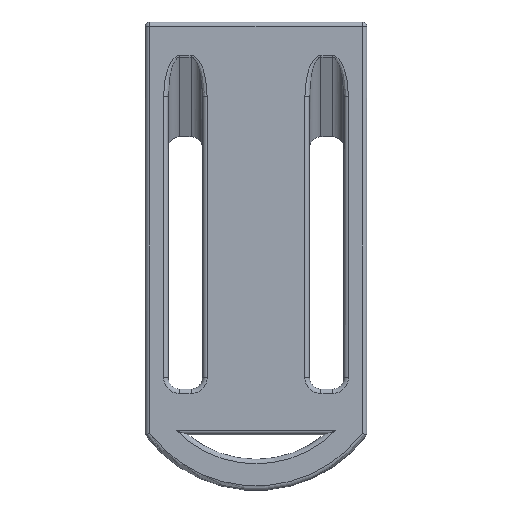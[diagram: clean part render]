
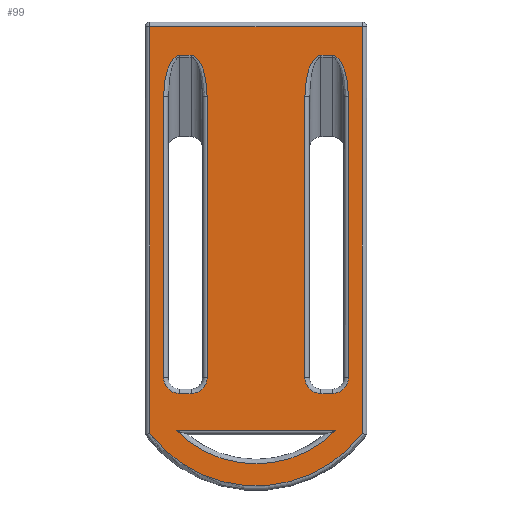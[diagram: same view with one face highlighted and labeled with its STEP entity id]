
A CAD part, front view. The second image highlights one B-rep face of the part: STEP entity #99.
In plain terms, the highlighted planar face has unit normal (0, -1, 0).
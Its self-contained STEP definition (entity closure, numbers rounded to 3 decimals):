
#99=ADVANCED_FACE('',(#494,#496,#498,#500),#502,.T.);
#494=FACE_BOUND('',#495,.T.);
#495=EDGE_LOOP('',(#1278,#1279,#1280,#1281));
#496=FACE_BOUND('',#497,.T.);
#497=EDGE_LOOP('',(#1282,#1283));
#498=FACE_BOUND('',#499,.T.);
#499=EDGE_LOOP('',(#1284,#1285,#1286,#1287,#1288,#1289,#1290,#1291));
#500=FACE_BOUND('',#501,.T.);
#501=EDGE_LOOP('',(#1292,#1293,#1294,#1295,#1296,#1297,#1298,#1299));
#502=PLANE('',#503);
#503=AXIS2_PLACEMENT_3D('',#504,#505,#506);
#504=CARTESIAN_POINT('',(-48.3,-5.,0.));
#505=DIRECTION('',(0.,-1.,0.));
#506=DIRECTION('',(1.,0.,0.));
#1278=ORIENTED_EDGE('',*,*,#1659,.F.);
#1279=ORIENTED_EDGE('',*,*,#1660,.T.);
#1280=ORIENTED_EDGE('',*,*,#1661,.T.);
#1281=ORIENTED_EDGE('',*,*,#1589,.F.);
#1282=ORIENTED_EDGE('',*,*,#1662,.T.);
#1283=ORIENTED_EDGE('',*,*,#1663,.T.);
#1284=ORIENTED_EDGE('',*,*,#1603,.F.);
#1285=ORIENTED_EDGE('',*,*,#1598,.T.);
#1286=ORIENTED_EDGE('',*,*,#1664,.F.);
#1287=ORIENTED_EDGE('',*,*,#1665,.T.);
#1288=ORIENTED_EDGE('',*,*,#1666,.F.);
#1289=ORIENTED_EDGE('',*,*,#1667,.T.);
#1290=ORIENTED_EDGE('',*,*,#1668,.F.);
#1291=ORIENTED_EDGE('',*,*,#1669,.T.);
#1292=ORIENTED_EDGE('',*,*,#1670,.F.);
#1293=ORIENTED_EDGE('',*,*,#1671,.T.);
#1294=ORIENTED_EDGE('',*,*,#1672,.F.);
#1295=ORIENTED_EDGE('',*,*,#1673,.T.);
#1296=ORIENTED_EDGE('',*,*,#1674,.F.);
#1297=ORIENTED_EDGE('',*,*,#1611,.T.);
#1298=ORIENTED_EDGE('',*,*,#1624,.F.);
#1299=ORIENTED_EDGE('',*,*,#1675,.T.);
#1589=EDGE_CURVE('',#1863,#1861,#1865,.T.);
#1598=EDGE_CURVE('',#1879,#1880,#1881,.F.);
#1603=EDGE_CURVE('',#1879,#1887,#1888,.F.);
#1611=EDGE_CURVE('',#1900,#1901,#1902,.F.);
#1624=EDGE_CURVE('',#1921,#1901,#1922,.F.);
#1659=EDGE_CURVE('',#1981,#1863,#1982,.T.);
#1660=EDGE_CURVE('',#1981,#1983,#1984,.T.);
#1661=EDGE_CURVE('',#1983,#1861,#1985,.T.);
#1662=EDGE_CURVE('',#1986,#1987,#1988,.F.);
#1663=EDGE_CURVE('',#1987,#1986,#1989,.F.);
#1664=EDGE_CURVE('',#1990,#1880,#1991,.F.);
#1665=EDGE_CURVE('',#1990,#1992,#1993,.F.);
#1666=EDGE_CURVE('',#1994,#1992,#1995,.T.);
#1667=EDGE_CURVE('',#1994,#1996,#1997,.F.);
#1668=EDGE_CURVE('',#1998,#1996,#1999,.F.);
#1669=EDGE_CURVE('',#1998,#1887,#2000,.F.);
#1670=EDGE_CURVE('',#2001,#2002,#2003,.F.);
#1671=EDGE_CURVE('',#2001,#2004,#2005,.F.);
#1672=EDGE_CURVE('',#2006,#2004,#2007,.F.);
#1673=EDGE_CURVE('',#2006,#2008,#2009,.F.);
#1674=EDGE_CURVE('',#1900,#2008,#2010,.T.);
#1675=EDGE_CURVE('',#1921,#2002,#2011,.F.);
#1861=VERTEX_POINT('',#2465);
#1863=VERTEX_POINT('',#2470);
#1865=LINE('',#2475,#2476);
#1879=VERTEX_POINT('',#2512);
#1880=VERTEX_POINT('',#2513);
#1881=LINE('',#2514,#2515);
#1887=VERTEX_POINT('',#2544);
#1888=CIRCLE('',#2545,7.);
#1900=VERTEX_POINT('',#2577);
#1901=VERTEX_POINT('',#2578);
#1902=LINE('',#2579,#2580);
#1921=VERTEX_POINT('',#2641);
#1922=CIRCLE('',#2642,7.);
#1981=VERTEX_POINT('',#2791);
#1982=LINE('',#2792,#2793);
#1983=VERTEX_POINT('',#2795);
#1984=CIRCLE('',#2796,58.24);
#1985=LINE('',#2800,#2801);
#1986=VERTEX_POINT('',#2803);
#1987=VERTEX_POINT('',#2804);
#1988=CIRCLE('',#2805,48.642);
#1989=LINE('',#2809,#2810);
#1990=VERTEX_POINT('',#2812);
#1991=(BOUNDED_CURVE()B_SPLINE_CURVE(3,
(#2813,#2814,#2815,#2816),
.UNSPECIFIED.,.F.,.F.)B_SPLINE_CURVE_WITH_KNOTS((4,4),
(0.,1.),
.UNSPECIFIED.)CURVE()GEOMETRIC_REPRESENTATION_ITEM()RATIONAL_B_SPLINE_CURVE((1.,
0.805,0.805,1.))REPRESENTATION_ITEM(''));
#1992=VERTEX_POINT('',#2817);
#1993=LINE('',#2818,#2819);
#1994=VERTEX_POINT('',#2821);
#1995=(BOUNDED_CURVE()B_SPLINE_CURVE(3,
(#2822,#2823,#2824,#2825),
.UNSPECIFIED.,.F.,.F.)B_SPLINE_CURVE_WITH_KNOTS((4,4),
(0.,1.),
.UNSPECIFIED.)CURVE()GEOMETRIC_REPRESENTATION_ITEM()RATIONAL_B_SPLINE_CURVE((1.,
0.805,0.805,1.))REPRESENTATION_ITEM(''));
#1996=VERTEX_POINT('',#2826);
#1997=LINE('',#2827,#2828);
#1998=VERTEX_POINT('',#2830);
#1999=CIRCLE('',#2831,7.);
#2000=LINE('',#2835,#2836);
#2001=VERTEX_POINT('',#2838);
#2002=VERTEX_POINT('',#2839);
#2003=CIRCLE('',#2840,7.);
#2004=VERTEX_POINT('',#2844);
#2005=LINE('',#2845,#2846);
#2006=VERTEX_POINT('',#2848);
#2007=(BOUNDED_CURVE()B_SPLINE_CURVE(3,
(#2849,#2850,#2851,#2852),
.UNSPECIFIED.,.F.,.F.)B_SPLINE_CURVE_WITH_KNOTS((4,4),
(0.,1.),
.UNSPECIFIED.)CURVE()GEOMETRIC_REPRESENTATION_ITEM()RATIONAL_B_SPLINE_CURVE((1.,
0.805,0.805,1.))REPRESENTATION_ITEM(''));
#2008=VERTEX_POINT('',#2853);
#2009=LINE('',#2854,#2855);
#2010=(BOUNDED_CURVE()B_SPLINE_CURVE(3,
(#2857,#2858,#2859,#2860),
.UNSPECIFIED.,.F.,.F.)B_SPLINE_CURVE_WITH_KNOTS((4,4),
(0.,1.),
.UNSPECIFIED.)CURVE()GEOMETRIC_REPRESENTATION_ITEM()RATIONAL_B_SPLINE_CURVE((1.,
0.805,0.805,1.))REPRESENTATION_ITEM(''));
#2011=LINE('',#2861,#2862);
#2465=CARTESIAN_POINT('',(46.3,-5.,168.));
#2470=CARTESIAN_POINT('',(-46.3,-5.,168.));
#2475=CARTESIAN_POINT('',(-46.3,-5.,168.));
#2476=VECTOR('',#2477,1.);
#2477=DIRECTION('',(1.,0.,0.));
#2512=CARTESIAN_POINT('',(21.3,-5.,15.));
#2513=CARTESIAN_POINT('',(21.3,-5.,137.505));
#2514=CARTESIAN_POINT('',(21.3,-5.,137.505));
#2515=VECTOR('',#2516,1.);
#2516=DIRECTION('',(0.,0.,-1.));
#2544=CARTESIAN_POINT('',(28.3,-5.,8.));
#2545=AXIS2_PLACEMENT_3D('',#2546,#2547,#2548);
#2546=CARTESIAN_POINT('',(28.3,-5.,15.));
#2547=DIRECTION('',(0.,1.,0.));
#2548=DIRECTION('',(0.,0.,-1.));
#2577=CARTESIAN_POINT('',(-21.3,-5.,137.505));
#2578=CARTESIAN_POINT('',(-21.3,-5.,15.));
#2579=CARTESIAN_POINT('',(-21.3,-5.,15.));
#2580=VECTOR('',#2581,1.);
#2581=DIRECTION('',(0.,0.,1.));
#2641=CARTESIAN_POINT('',(-28.3,-5.,8.));
#2642=AXIS2_PLACEMENT_3D('',#2643,#2644,#2645);
#2643=CARTESIAN_POINT('',(-28.3,-5.,15.));
#2644=DIRECTION('',(0.,1.,0.));
#2645=DIRECTION('',(1.,0.,0.));
#2791=CARTESIAN_POINT('',(-46.3,-5.,-9.33));
#2792=CARTESIAN_POINT('',(-46.3,-5.,-9.33));
#2793=VECTOR('',#2794,1.);
#2794=DIRECTION('',(0.,0.,1.));
#2795=CARTESIAN_POINT('',(46.3,-5.,-9.33));
#2796=AXIS2_PLACEMENT_3D('',#2797,#2798,#2799);
#2797=CARTESIAN_POINT('',(0.,-5.,26.));
#2798=DIRECTION('',(0.,-1.,0.));
#2799=DIRECTION('',(-0.795,0.,-0.607));
#2800=CARTESIAN_POINT('',(46.3,-5.,-9.33));
#2801=VECTOR('',#2802,1.);
#2802=DIRECTION('',(0.,0.,1.));
#2803=CARTESIAN_POINT('',(34.786,-5.,-8.));
#2804=CARTESIAN_POINT('',(-34.786,-5.,-8.));
#2805=AXIS2_PLACEMENT_3D('',#2806,#2807,#2808);
#2806=CARTESIAN_POINT('',(0.,-5.,26.));
#2807=DIRECTION('',(0.,-1.,0.));
#2808=DIRECTION('',(-0.715,0.,-0.699));
#2809=CARTESIAN_POINT('',(34.786,-5.,-8.));
#2810=VECTOR('',#2811,1.);
#2811=DIRECTION('',(-1.,0.,0.));
#2812=CARTESIAN_POINT('',(28.3,-5.,155.407));
#2813=CARTESIAN_POINT('',(21.3,-5.,137.505));
#2814=CARTESIAN_POINT('',(21.3,-5.,147.992));
#2815=CARTESIAN_POINT('',(24.199,-5.,155.407));
#2816=CARTESIAN_POINT('',(28.3,-5.,155.407));
#2817=CARTESIAN_POINT('',(33.3,-5.,155.407));
#2818=CARTESIAN_POINT('',(33.3,-5.,155.407));
#2819=VECTOR('',#2820,1.);
#2820=DIRECTION('',(-1.,0.,0.));
#2821=CARTESIAN_POINT('',(40.3,-5.,137.505));
#2822=CARTESIAN_POINT('',(40.3,-5.,137.505));
#2823=CARTESIAN_POINT('',(40.3,-5.,147.992));
#2824=CARTESIAN_POINT('',(37.401,-5.,155.407));
#2825=CARTESIAN_POINT('',(33.3,-5.,155.407));
#2826=CARTESIAN_POINT('',(40.3,-5.,15.));
#2827=CARTESIAN_POINT('',(40.3,-5.,15.));
#2828=VECTOR('',#2829,1.);
#2829=DIRECTION('',(0.,0.,1.));
#2830=CARTESIAN_POINT('',(33.3,-5.,8.));
#2831=AXIS2_PLACEMENT_3D('',#2832,#2833,#2834);
#2832=CARTESIAN_POINT('',(33.3,-5.,15.));
#2833=DIRECTION('',(0.,1.,0.));
#2834=DIRECTION('',(1.,0.,0.));
#2835=CARTESIAN_POINT('',(28.3,-5.,8.));
#2836=VECTOR('',#2837,1.);
#2837=DIRECTION('',(1.,0.,0.));
#2838=CARTESIAN_POINT('',(-40.3,-5.,15.));
#2839=CARTESIAN_POINT('',(-33.3,-5.,8.));
#2840=AXIS2_PLACEMENT_3D('',#2841,#2842,#2843);
#2841=CARTESIAN_POINT('',(-33.3,-5.,15.));
#2842=DIRECTION('',(0.,1.,0.));
#2843=DIRECTION('',(0.,0.,-1.));
#2844=CARTESIAN_POINT('',(-40.3,-5.,137.505));
#2845=CARTESIAN_POINT('',(-40.3,-5.,137.505));
#2846=VECTOR('',#2847,1.);
#2847=DIRECTION('',(0.,0.,-1.));
#2848=CARTESIAN_POINT('',(-33.3,-5.,155.407));
#2849=CARTESIAN_POINT('',(-40.3,-5.,137.505));
#2850=CARTESIAN_POINT('',(-40.3,-5.,147.992));
#2851=CARTESIAN_POINT('',(-37.401,-5.,155.407));
#2852=CARTESIAN_POINT('',(-33.3,-5.,155.407));
#2853=CARTESIAN_POINT('',(-28.3,-5.,155.407));
#2854=CARTESIAN_POINT('',(-28.3,-5.,155.407));
#2855=VECTOR('',#2856,1.);
#2856=DIRECTION('',(-1.,0.,0.));
#2857=CARTESIAN_POINT('',(-21.3,-5.,137.505));
#2858=CARTESIAN_POINT('',(-21.3,-5.,147.992));
#2859=CARTESIAN_POINT('',(-24.199,-5.,155.407));
#2860=CARTESIAN_POINT('',(-28.3,-5.,155.407));
#2861=CARTESIAN_POINT('',(-33.3,-5.,8.));
#2862=VECTOR('',#2863,1.);
#2863=DIRECTION('',(1.,0.,0.));
